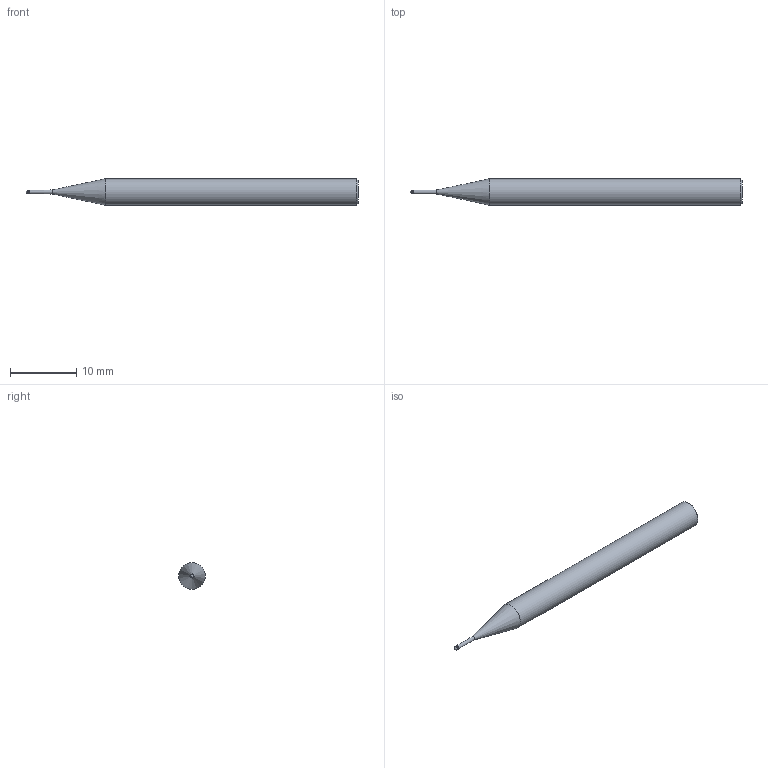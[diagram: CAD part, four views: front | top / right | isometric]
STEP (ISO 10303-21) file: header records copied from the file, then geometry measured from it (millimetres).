
FILE_DESCRIPTION(/* description */ (''),/* implementation_level */ '2;1');
FILE_NAME(/* name */ 'HGXPB2006-4-T0.4 0450.stp',/* time_stamp */ '2026-01-22T09:34:01+08:00',/* author */ (''),/* organization */ (''),/* preprocessor_version */ 'ST-DEVELOPER v16',/* originating_system */ 'SIEMENS PLM Software NX 10.0',/* authorisation */ '');
FILE_SCHEMA (('CONFIG_CONTROL_DESIGN'));
Length unit declared in the file: millimetre
Products named in the file (1): HGXPB2006-4-T0.4 0450_dxf
Bounding box: 50 x 4 x 4 mm (x, y, z)
Volume: 517.8 mm3; surface area: 555.2 mm2
Topology: 1 solids, 1 shells, 9 faces, 16 edges, 9 vertices
Faces by surface type: cylinder 3, cone 3, plane 2, bspline 1
Full cylindrical faces by diameter (mm): 0.56 x1, 0.6 x1, 4 x1
Entity records: 285 total; most frequent: CARTESIAN_POINT 54, DIRECTION 34, AXIS2_PLACEMENT_3D 17, FACE_BOUND 16, EDGE_LOOP 16, ORIENTED_EDGE 16, ADVANCED_FACE 9, VERTEX_POINT 9
